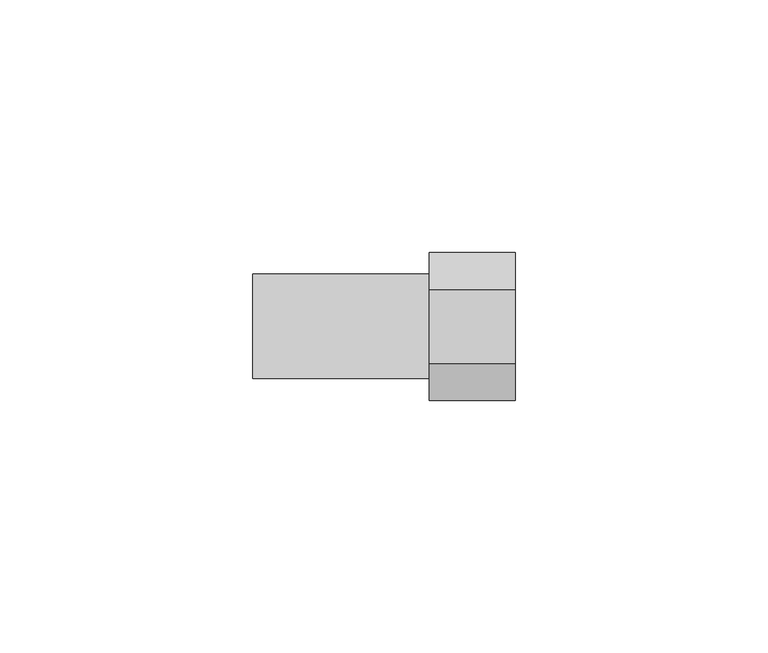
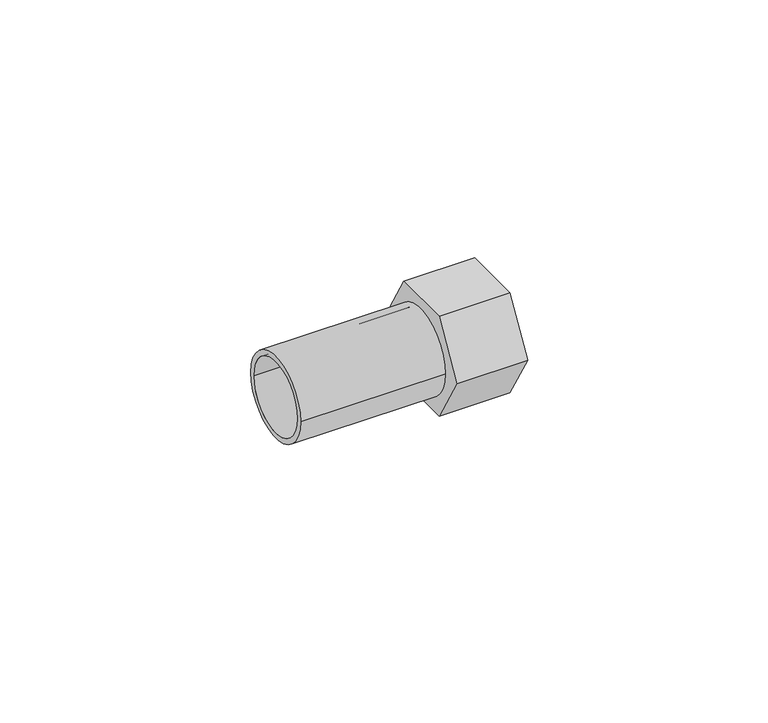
"""IFC4 building model written with IfcOpenShell, lengths in millimetres: pipe fitting geometry, VALTEC_VTi.907.I_Вставка с внутренней резьбой_Нержавеющая сталь : VTi.907.I."""

import ifcopenshell
import ifcopenshell.guid

model = None  # the IFC model being written
_history = None  # IfcOwnerHistory: only IFC2X3 demands one
_inside = {}  # id of a spatial element -> (the spatial element, [elements in it])
_under = {}  # id of a project, library or spatial element -> (it, [spatial elements below it])
_declared = {}  # id of a project -> (the project, [libraries it declares])
_typed = {}  # id of a type object -> (the type object, [elements of that type])
_made_of = {}  # id of a material, layer set ... -> (it, [elements and type objects made of it])


def new_model(schema):
    """Start an empty IFC model of exactly this schema.

    Asked for "IFC4X3", IfcOpenShell would pick the latest addendum, in which some entities
    have other attributes; the version numbers below select the first issue.
    IFC2X3 requires an IfcOwnerHistory on every rooted entity: one is made here for all.
    """
    global model, _history
    if schema == "IFC4X3":
        model = ifcopenshell.file(schema_version=(4, 3, 0, 0))
    else:
        model = ifcopenshell.file(schema=schema)
    _inside.clear()
    _under.clear()
    _declared.clear()
    _typed.clear()
    _made_of.clear()
    _history = None
    if model.schema == "IFC2X3":
        org = make("IfcOrganization", Name="unknown")
        user = make(
            "IfcPersonAndOrganization",
            ThePerson=make("IfcPerson", FamilyName="unknown"),
            TheOrganization=org,
        )
        app = make(
            "IfcApplication",
            ApplicationDeveloper=org,
            Version="unknown",
            ApplicationFullName="unknown",
            ApplicationIdentifier="unknown",
        )
        _history = make(
            "IfcOwnerHistory",
            OwningUser=user,
            OwningApplication=app,
            ChangeAction="ADDED",
            CreationDate=0,
        )
    return model


def make(cls, **values):
    """One entity of the class cls with the attributes given. An attribute that is None is left unset."""
    return model.create_entity(
        cls, **{name: value for name, value in values.items() if value is not None}
    )


def rooted(cls, **values):
    """An entity with a GlobalId (a new one), such as an element, a storey or a relation."""
    return make(cls, GlobalId=ifcopenshell.guid.new(), OwnerHistory=_history, **values)


def si_unit(unit_type, name, prefix=None):
    """IfcSIUnit, for example si_unit("LENGTHUNIT", "METRE", prefix="MILLI")."""
    return make("IfcSIUnit", UnitType=unit_type, Prefix=prefix, Name=name)


def assignment(units):
    """IfcUnitAssignment: the units of a project."""
    return None if units is None else make("IfcUnitAssignment", Units=units)


def point(xyz):
    """IfcCartesianPoint."""
    return None if xyz is None else make("IfcCartesianPoint", Coordinates=xyz)


def direction(xyz):
    """IfcDirection."""
    return None if xyz is None else make("IfcDirection", DirectionRatios=xyz)


def frame(location, z_axis=None, x_axis=None):
    """IfcAxis2Placement3D, a coordinate frame: its origin and axes. An axis left out is left unset."""
    return make(
        "IfcAxis2Placement3D",
        Location=point(location),
        Axis=direction(z_axis),
        RefDirection=direction(x_axis),
    )


def frame_2d(location, x_axis=None):
    """IfcAxis2Placement2D, a coordinate frame in the plane: its origin and x axis."""
    return make(
        "IfcAxis2Placement2D", Location=point(location), RefDirection=direction(x_axis)
    )


def origin():
    """The frame at (0, 0, 0) with its axes left unset."""
    return frame((0.0, 0.0, 0.0))


def origin_2d():
    """The frame at (0, 0) in the plane with its x axis left unset."""
    return frame_2d((0.0, 0.0))


def place(relative_to, where):
    """IfcLocalPlacement: puts the frame where relative to a parent placement (None: the world)."""
    return make(
        "IfcLocalPlacement", PlacementRelTo=relative_to, RelativePlacement=where
    )


def context(
    kind, dimensions, precision=None, world=None, true_north=None, identifier=None
):
    """IfcGeometricRepresentationContext, for example the 3D "Model" context."""
    return make(
        "IfcGeometricRepresentationContext",
        ContextIdentifier=identifier,
        ContextType=kind,
        CoordinateSpaceDimension=dimensions,
        Precision=precision,
        WorldCoordinateSystem=world,
        TrueNorth=true_north,
    )


def project(units=None, contexts=None):
    """IfcProject with its units and contexts."""
    return rooted(
        "IfcProject",
        Name="project",
        RepresentationContexts=contexts,
        UnitsInContext=assignment(units),
    )


def spatial(cls, under=None, at=None, **own):
    """A site, building, storey or space (cls), placed at a placement, below another one or the project."""
    s = rooted(cls, ObjectPlacement=at, **own)
    if under is not None:
        _under.setdefault(under.id(), (under, []))[1].append(s)
    return s


def polyline(points):
    """IfcPolyline through the points."""
    return make("IfcPolyline", Points=[point(p) for p in points])


def circle_curve(where, radius):
    """IfcCircle in the frame where."""
    return make("IfcCircle", Position=where, Radius=radius)


def trimmed(basis, trim1, trim2, sense, master):
    """IfcTrimmedCurve: the piece of a basis curve between two trims."""
    return make(
        "IfcTrimmedCurve",
        BasisCurve=basis,
        Trim1=trim1,
        Trim2=trim2,
        SenseAgreement=sense,
        MasterRepresentation=master,
    )


def segment(curve, same_sense, transition):
    """IfcCompositeCurveSegment."""
    return make(
        "IfcCompositeCurveSegment",
        Transition=transition,
        SameSense=same_sense,
        ParentCurve=curve,
    )


def composite_curve(segments, self_intersect=None):
    """IfcCompositeCurve: segments joined end to end."""
    return make("IfcCompositeCurve", Segments=segments, SelfIntersect=self_intersect)


def outline(outer, holes=None, kind="AREA"):
    """IfcArbitraryClosedProfileDef: a profile drawn as a closed curve; with holes, ...WithVoids."""
    if holes is None:
        return make("IfcArbitraryClosedProfileDef", ProfileType=kind, OuterCurve=outer)
    return make(
        "IfcArbitraryProfileDefWithVoids",
        ProfileType=kind,
        OuterCurve=outer,
        InnerCurves=holes,
    )


def extrude(swept, where, along, depth):
    """IfcExtrudedAreaSolid: the profile swept, set in the frame where, extruded along a direction by depth."""
    return make(
        "IfcExtrudedAreaSolid",
        SweptArea=swept,
        Position=where,
        ExtrudedDirection=direction(along),
        Depth=depth,
    )


def shape(context_of_items, identifier, shape_type, items):
    """IfcShapeRepresentation: the items that make up one representation, for example the "Body"."""
    return make(
        "IfcShapeRepresentation",
        ContextOfItems=context_of_items,
        RepresentationIdentifier=identifier,
        RepresentationType=shape_type,
        Items=items,
    )


def source(mapping_origin, context_of_items, identifier, shape_type, items):
    """IfcRepresentationMap: a shape defined once, which mapped items show again and again."""
    return make(
        "IfcRepresentationMap",
        MappingOrigin=mapping_origin,
        MappedRepresentation=shape(context_of_items, identifier, shape_type, items),
    )


def transform(
    local_origin,
    x_axis=None,
    y_axis=None,
    z_axis=None,
    scale=None,
    scale2=None,
    scale3=None,
    uniform=True,
):
    """IfcCartesianTransformationOperator3D, or its non-uniform kind. x_axis, y_axis, z_axis: its Axis1, 2, 3."""
    if uniform:
        return make(
            "IfcCartesianTransformationOperator3D",
            Axis1=direction(x_axis),
            Axis2=direction(y_axis),
            LocalOrigin=point(local_origin),
            Scale=scale,
            Axis3=direction(z_axis),
        )
    return make(
        "IfcCartesianTransformationOperator3DnonUniform",
        Axis1=direction(x_axis),
        Axis2=direction(y_axis),
        LocalOrigin=point(local_origin),
        Scale=scale,
        Axis3=direction(z_axis),
        Scale2=scale2,
        Scale3=scale3,
    )


def mapped(mapping_source, mapping_target):
    """IfcMappedItem: shows the shape of a source again, moved by a transform."""
    return make(
        "IfcMappedItem", MappingSource=mapping_source, MappingTarget=mapping_target
    )


def made_of(thing, what):
    """Note that an element or type object is made of a material, layer set ...; save() writes the relation."""
    if what is not None:
        _made_of.setdefault(what.id(), (what, []))[1].append(thing)
    return thing


def element(
    cls,
    number,
    at=None,
    inside=None,
    cuts=None,
    type_object=None,
    material=None,
    context=None,
    identifier="Body",
    shape_type=None,
    held_by="IfcProductDefinitionShape",
    body=None,
    shapes=None,
    **own,
):
    """One element of the class cls, such as IfcWall. Its Tag is "e" and its number.

    at: its placement. inside: the storey or other place that contains it. cuts: it is an
    opening in that element (IfcRelVoidsElement). A single representation is given by context,
    identifier, shape_type and body (its items); several are given by shapes. held_by: the class
    of the entity that holds the representations. save() writes the other relations.
    """
    e = rooted(cls, Tag="e%d" % number, ObjectPlacement=at, **own)
    if body is not None:
        shapes = [shape(context, identifier, shape_type, body)]
    if shapes is not None:
        e.Representation = make(held_by, Representations=shapes)
    if inside is not None:
        _inside.setdefault(inside.id(), (inside, []))[1].append(e)
    if cuts is not None:
        rooted(
            "IfcRelVoidsElement", RelatingBuildingElement=cuts, RelatedOpeningElement=e
        )
    if type_object is not None:
        _typed.setdefault(type_object.id(), (type_object, []))[1].append(e)
    return made_of(e, material)


def aggregate(whole, parts):
    """IfcRelAggregates: a whole, such as a stair, and the parts it consists of."""
    return rooted("IfcRelAggregates", RelatingObject=whole, RelatedObjects=parts)


def save(model, path):
    """Write the relations noted so far, then the file.

    IfcRelAggregates (storeys below a building ...), IfcRelContainedInSpatialStructure (elements
    in a storey), IfcRelDefinesByType, IfcRelAssociatesMaterial and IfcRelDeclares: one each for
    every whole, place, type object, material and project.
    """
    for whole, parts in _under.values():
        aggregate(whole, parts)
    for where, things in _inside.values():
        rooted(
            "IfcRelContainedInSpatialStructure",
            RelatedElements=things,
            RelatingStructure=where,
        )
    for kind, things in _typed.values():
        rooted("IfcRelDefinesByType", RelatedObjects=things, RelatingType=kind)
    for what, things in _made_of.values():
        rooted("IfcRelAssociatesMaterial", RelatedObjects=things, RelatingMaterial=what)
    for by, libraries in _declared.values():
        rooted("IfcRelDeclares", RelatingContext=by, RelatedDefinitions=libraries)
    model.write(path)


def pipe_fitting_11b9fc44(model_context):
    return source(origin(), model_context, "Body", "SweptSolid", [
        extrude(outline(polyline([(-14.6358293, 0.0), (-7.3179147, 12.675), (7.3179147, 12.675), (14.6358293, 0.0), (7.3179147, -12.675), (-7.3179147, -12.675), (-14.6358293, 0.0)]), holes=[composite_curve([segment(trimmed(circle_curve(origin_2d(), 7.5), [point((7.5, 0.0))], [point((-7.5, 0.0))], True, "CARTESIAN"), True, "CONTINUOUS"), segment(trimmed(circle_curve(origin_2d(), 7.5), [point((-7.5, 0.0))], [point((7.5, 0.0))], True, "CARTESIAN"), True, "CONTINUOUS")], self_intersect=False)]), frame((-8.5, 0.0, 0.0), z_axis=(1.0, 0.0, 0.0), x_axis=(0.0, 1.0, 0.0)), (0.0, 0.0, 1.0), 17.0),
        extrude(outline(composite_curve([segment(trimmed(circle_curve(origin_2d(), 10.35), [point((-10.35, 0.0))], [point((10.35, 0.0))], False, "CARTESIAN"), True, "CONTINUOUS"), segment(trimmed(circle_curve(origin_2d(), 10.35), [point((10.35, 0.0))], [point((-10.35, 0.0))], False, "CARTESIAN"), True, "CONTINUOUS")], self_intersect=False), holes=[composite_curve([segment(trimmed(circle_curve(origin_2d(), 9.0), [point((-9.0, 0.0))], [point((9.0, 0.0))], True, "CARTESIAN"), True, "CONTINUOUS"), segment(trimmed(circle_curve(origin_2d(), 9.0), [point((9.0, 0.0))], [point((-9.0, 0.0))], True, "CARTESIAN"), True, "CONTINUOUS")], self_intersect=False)]), frame((-43.5, 0.0, 0.0), z_axis=(1.0, 0.0, 0.0), x_axis=(0.0, 1.0, 0.0)), (0.0, 0.0, 1.0), 35.0),
    ])


if __name__ == "__main__":
    model = new_model("IFC4")
    model_context = context("Model", 3, world=origin())
    ifc_project = project(units=[si_unit("LENGTHUNIT", "METRE", prefix="MILLI")], contexts=[model_context])
    site = spatial("IfcSite", under=ifc_project)
    building = spatial("IfcBuilding", under=site)
    placement = place(None, origin())
    pipe_fitting_shape = pipe_fitting_11b9fc44(model_context)
    element("IfcPipeFitting", 1, ObjectType="VALTEC_VTi.907.I_Вставка с внутренней резьбой_Нержавеющая сталь : VTi.907.I", at=placement, inside=building, context=model_context, shape_type="MappedRepresentation", body=[
        mapped(pipe_fitting_shape, transform((0.0, 0.0, 0.0), x_axis=(1.0, 0.0, 0.0), y_axis=(0.0, 1.0, 0.0), z_axis=(0.0, 0.0, 1.0))),
    ])
    save(model, "model.ifc")
